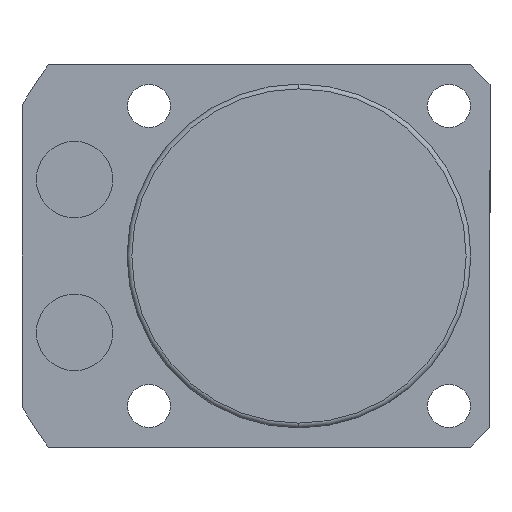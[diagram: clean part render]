
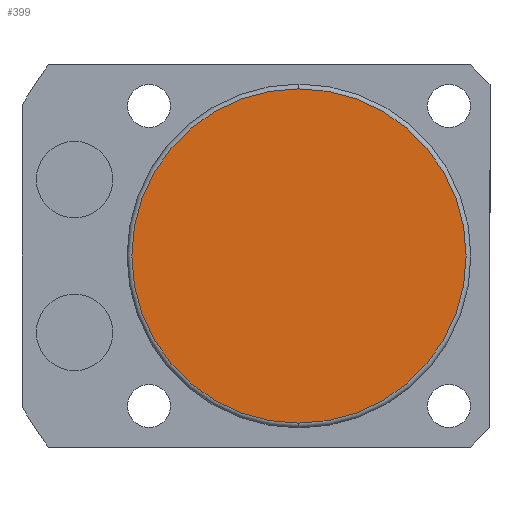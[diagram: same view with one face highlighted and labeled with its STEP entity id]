
A CAD part, front view. The second image highlights one B-rep face of the part: STEP entity #399.
In plain terms, the highlighted planar face has unit normal (0, -1, 0).
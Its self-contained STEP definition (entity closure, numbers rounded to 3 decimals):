
#4 = CIRCLE ( 'NONE', #283, 17.5 ) ;
#37 = CARTESIAN_POINT ( 'NONE',  ( 0., -115.5, 0. ) ) ;
#160 = DIRECTION ( 'NONE',  ( 0., -1., 0. ) ) ;
#283 = AXIS2_PLACEMENT_3D ( 'NONE', #924, #1376, #1142 ) ;
#378 = AXIS2_PLACEMENT_3D ( 'NONE', #37, #634, #2350 ) ;
#392 = VERTEX_POINT ( 'NONE', #1218 ) ;
#399 = ADVANCED_FACE ( 'NONE', ( #2445 ), #1623, .T. ) ;
#459 = AXIS2_PLACEMENT_3D ( 'NONE', #1821, #160, #1024 ) ;
#634 = DIRECTION ( 'NONE',  ( 0., -1., 0. ) ) ;
#835 = EDGE_LOOP ( 'NONE', ( #1884, #1535 ) ) ;
#924 = CARTESIAN_POINT ( 'NONE',  ( 0., -115.5, 0. ) ) ;
#1024 = DIRECTION ( 'NONE',  ( 0., 0., -1. ) ) ;
#1142 = DIRECTION ( 'NONE',  ( 0., 0., -1. ) ) ;
#1218 = CARTESIAN_POINT ( 'NONE',  ( 0., -115.5, -17.5 ) ) ;
#1296 = VERTEX_POINT ( 'NONE', #2049 ) ;
#1376 = DIRECTION ( 'NONE',  ( 0., -1., 0. ) ) ;
#1535 = ORIENTED_EDGE ( 'NONE', *, *, #1932, .T. ) ;
#1623 = PLANE ( 'NONE',  #459 ) ;
#1821 = CARTESIAN_POINT ( 'NONE',  ( 0., -115.5, 0. ) ) ;
#1884 = ORIENTED_EDGE ( 'NONE', *, *, #2647, .T. ) ;
#1932 = EDGE_CURVE ( 'NONE', #1296, #392, #2397, .T. ) ;
#2049 = CARTESIAN_POINT ( 'NONE',  ( 0., -115.5, 17.5 ) ) ;
#2350 = DIRECTION ( 'NONE',  ( 0., 0., -1. ) ) ;
#2397 = CIRCLE ( 'NONE', #378, 17.5 ) ;
#2445 = FACE_OUTER_BOUND ( 'NONE', #835, .T. ) ;
#2647 = EDGE_CURVE ( 'NONE', #392, #1296, #4, .T. ) ;
